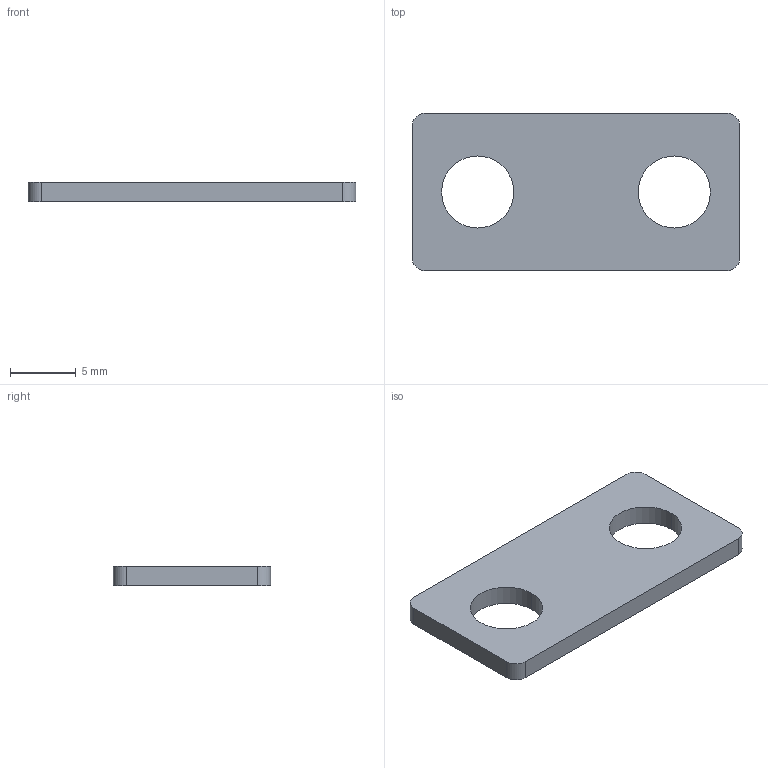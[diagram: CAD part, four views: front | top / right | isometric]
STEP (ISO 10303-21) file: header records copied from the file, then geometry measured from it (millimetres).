
FILE_DESCRIPTION (( 'STEP AP203' ), '1' );
FILE_NAME ('PTD-M5P15.STEP', '2023-10-12T01:40:38', ( '微软用户' ), ( '微软中国' ), 'SwSTEP 2.0', 'SolidWorks 2019', '' );
FILE_SCHEMA (( 'CONFIG_CONTROL_DESIGN' ));
Length unit declared in the file: millimetre
Products named in the file (1): PTD-M5P15
Bounding box: 25 x 12 x 1.5 mm (x, y, z)
Volume: 377.4 mm3; surface area: 663.5 mm2
Topology: 1 solids, 1 shells, 14 faces, 36 edges, 24 vertices
Faces by surface type: cylinder 8, plane 6
Entity records: 521 total; most frequent: DIRECTION 82, CARTESIAN_POINT 75, ORIENTED_EDGE 72, EDGE_CURVE 36, AXIS2_PLACEMENT_3D 31, VERTEX_POINT 24, VECTOR 20, LINE 20
